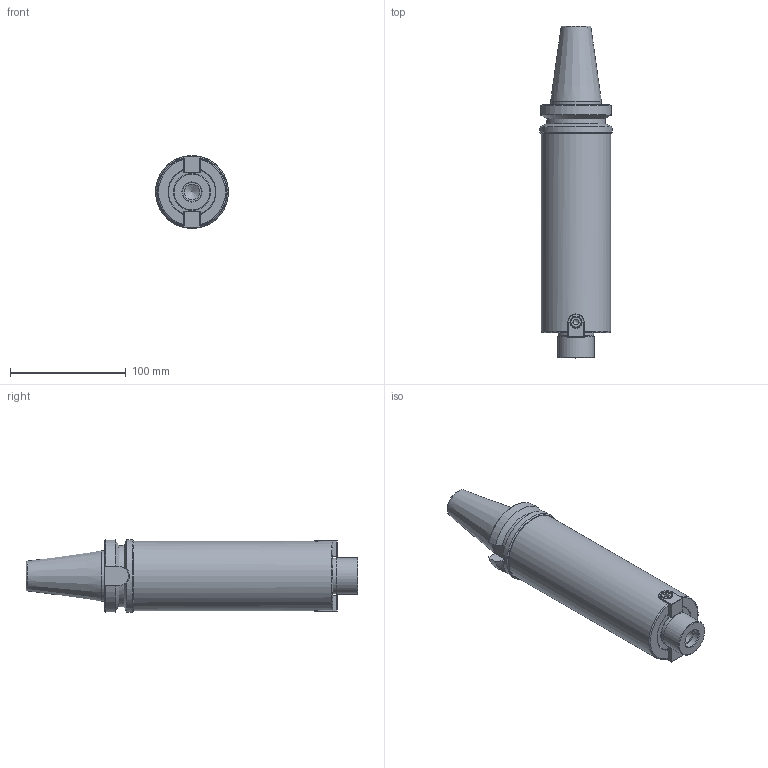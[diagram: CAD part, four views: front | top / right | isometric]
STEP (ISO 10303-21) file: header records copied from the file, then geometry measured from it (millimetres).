
FILE_DESCRIPTION(/* description */ (''),/* implementation_level */ '2;1');
FILE_NAME(/* name */ 'BT40-FMB32-200.stp',/* time_stamp */ '2025-10-03T17:32:27+03:00',/* author */ ('User'),/* organization */ (''),/* preprocessor_version */ 'ST-DEVELOPER v19.2',/* originating_system */ 'Autodesk Inventor 2024',/* authorisation */ '');
FILE_SCHEMA (('AUTOMOTIVE_DESIGN { 1 0 10303 214 3 1 1 }'));
Length unit declared in the file: millimetre
Products named in the file (4): BT40-FMB32-200; BT40-FMB22-100L; Сухарь; ANSI B18.3.1M - M6x1 x 12, BSHCSM
Assembly tree (5 placements, depth 2):
  BT40-FMB32-200
    BT40-FMB22-100L
    Сухарь  x2
    ANSI B18.3.1M - M6x1 x 12, BSHCSM  x2
Bounding box: 63 x 287.2 x 63 mm (x, y, z)
Volume: 623572.5 mm3; surface area: 63126.5 mm2
Topology: 5 solids, 5 shells, 144 faces, 331 edges, 210 vertices
Faces by surface type: plane 55, cylinder 45, cone 23, torus 11, sphere 8, bspline 2
Full cylindrical faces by diameter (mm): 4.917 x4, 6 x2, 10 x4, 13.835 x2, 16.5 x1, 17 x1, 31 x1, 32 x1, 43.3 x1, 60 x1, 63 x1
Entity records: 3384 total; most frequent: CARTESIAN_POINT 822, DIRECTION 521, ORIENTED_EDGE 490, EDGE_CURVE 245, AXIS2_PLACEMENT_3D 212, VERTEX_POINT 160, EDGE_LOOP 121, FACE_OUTER_BOUND 105
